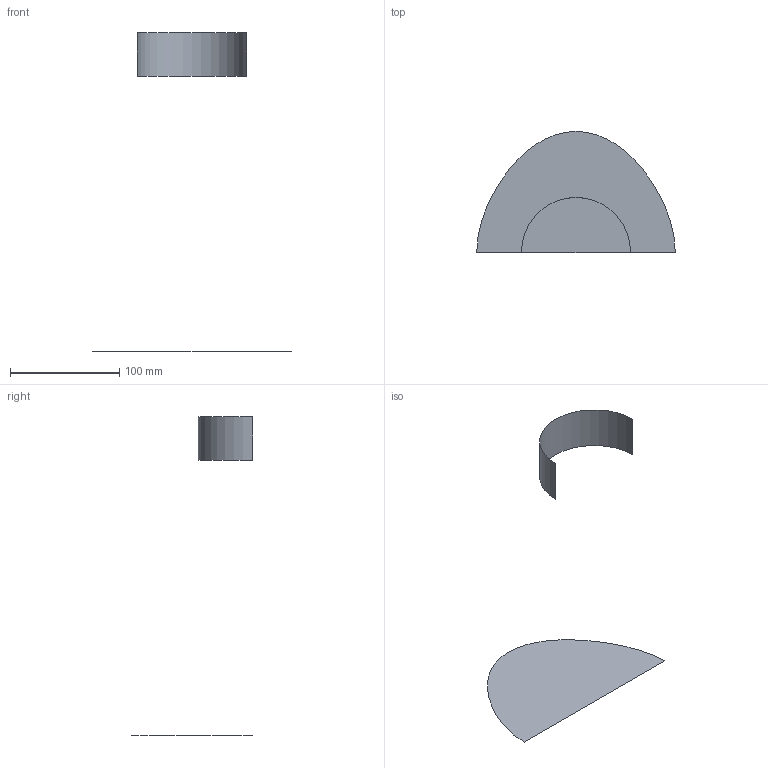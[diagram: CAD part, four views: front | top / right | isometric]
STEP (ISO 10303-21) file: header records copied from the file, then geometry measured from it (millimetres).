
FILE_DESCRIPTION(('CATIA V5 STEP Exchange'),'2;1');
FILE_NAME('C:\_Andres\UNIVERSIDAD\IQS\ASIGNATURAS\DAO\Controles\1617\c1\1original\Altirriba_Cusco_Ej00-base_v1.stp','2017-02-06T16:27:30+00:00',('none'),('none'),'CATIA Version 5-6 Release 2014 SP1 HF18','CATIA V5 STEP AP203','none');
FILE_SCHEMA(('CONFIG_CONTROL_DESIGN'));
Length unit declared in the file: millimetre
Products named in the file (1): Altirriba_Cusco_Ej00-base_v1
Bounding box: 182 x 111 x 292 mm (x, y, z)
Surface area: 21516.2 mm2 (no closed solid volume)
Topology: 0 solids, 2 shells, 2 faces, 16 edges, 26 vertices
Faces by surface type: cylinder 1, plane 1
Entity records: 230 total; most frequent: CARTESIAN_POINT 78, DIRECTION 16, COMPOSITE_CURVE_SEGMENT 9, TRIMMED_CURVE 9, AXIS2_PLACEMENT_3D 8, COMPOSITE_CURVE 7, ORIENTED_EDGE 7, EDGE_CURVE 7
